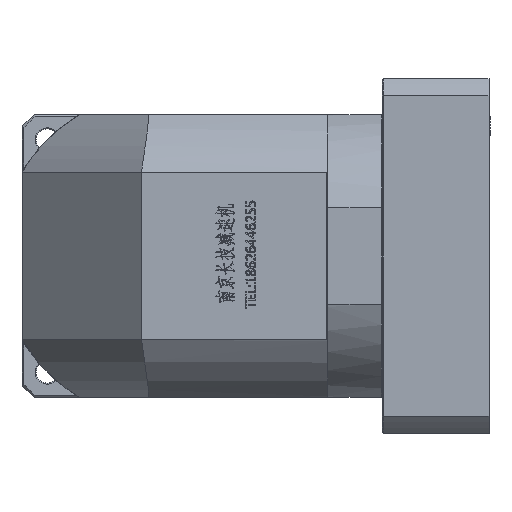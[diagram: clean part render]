
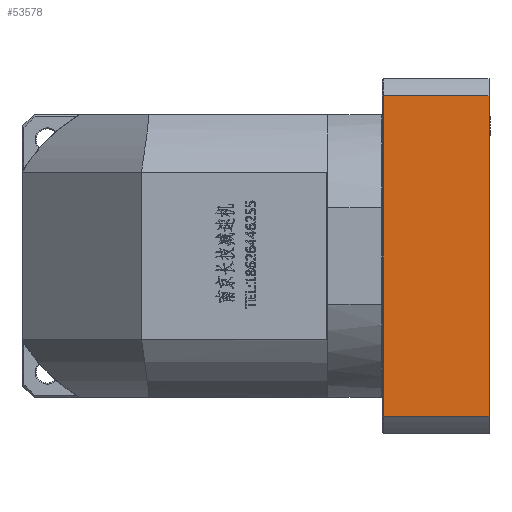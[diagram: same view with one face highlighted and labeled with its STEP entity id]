
A CAD part, left-side view. The second image highlights one B-rep face of the part: STEP entity #53578.
In plain terms, the highlighted planar face has unit normal (-1, 0, 0).
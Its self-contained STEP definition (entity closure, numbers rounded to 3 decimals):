
#666 = CARTESIAN_POINT ( 'NONE',  ( -47.552, -170.319, 156.879 ) ) ;
#5004 = DIRECTION ( 'NONE',  ( 0., 1., 0. ) ) ;
#12781 = EDGE_CURVE ( 'NONE', #33826, #125347, #61573, .T. ) ;
#13772 = DIRECTION ( 'NONE',  ( 0., 0., -1. ) ) ;
#15189 = FACE_OUTER_BOUND ( 'NONE', #112871, .T. ) ;
#15910 = ORIENTED_EDGE ( 'NONE', *, *, #12781, .T. ) ;
#24927 = VERTEX_POINT ( 'NONE', #124285 ) ;
#28641 = CARTESIAN_POINT ( 'NONE',  ( -47.552, -223.819, 317.864 ) ) ;
#33826 = VERTEX_POINT ( 'NONE', #110635 ) ;
#40292 = LINE ( 'NONE', #161288, #52495 ) ;
#44072 = CARTESIAN_POINT ( 'NONE',  ( -47.552, -223.319, 317.864 ) ) ;
#52495 = VECTOR ( 'NONE', #5004, 1000. ) ;
#53578 = ADVANCED_FACE ( 'NONE', ( #15189 ), #101663, .F. ) ;
#57016 = EDGE_CURVE ( 'NONE', #33826, #138757, #57554, .T. ) ;
#57554 = LINE ( 'NONE', #28641, #131160 ) ;
#60368 = ORIENTED_EDGE ( 'NONE', *, *, #57016, .F. ) ;
#61573 = LINE ( 'NONE', #158702, #116761 ) ;
#61860 = VECTOR ( 'NONE', #111222, 1000. ) ;
#73078 = ORIENTED_EDGE ( 'NONE', *, *, #79558, .F. ) ;
#75971 = CARTESIAN_POINT ( 'NONE',  ( -47.552, -223.819, 148.371 ) ) ;
#79558 = EDGE_CURVE ( 'NONE', #24927, #125347, #40292, .T. ) ;
#94179 = DIRECTION ( 'NONE',  ( 0., -1., 0. ) ) ;
#101663 = PLANE ( 'NONE',  #136114 ) ;
#110635 = CARTESIAN_POINT ( 'NONE',  ( -47.552, -170.319, 317.864 ) ) ;
#111222 = DIRECTION ( 'NONE',  ( 0., 0., -1. ) ) ;
#112871 = EDGE_LOOP ( 'NONE', ( #60368, #15910, #73078, #140300 ) ) ;
#116761 = VECTOR ( 'NONE', #13772, 1000. ) ;
#124285 = CARTESIAN_POINT ( 'NONE',  ( -47.552, -223.319, 156.879 ) ) ;
#125347 = VERTEX_POINT ( 'NONE', #666 ) ;
#129653 = DIRECTION ( 'NONE',  ( 0., 1., 0. ) ) ;
#131160 = VECTOR ( 'NONE', #94179, 1000. ) ;
#136114 = AXIS2_PLACEMENT_3D ( 'NONE', #75971, #155288, #129653 ) ;
#138757 = VERTEX_POINT ( 'NONE', #44072 ) ;
#140300 = ORIENTED_EDGE ( 'NONE', *, *, #143548, .F. ) ;
#143548 = EDGE_CURVE ( 'NONE', #138757, #24927, #157784, .T. ) ;
#155288 = DIRECTION ( 'NONE',  ( 1., 0., 0. ) ) ;
#157784 = LINE ( 'NONE', #164270, #61860 ) ;
#158702 = CARTESIAN_POINT ( 'NONE',  ( -47.552, -170.319, 148.371 ) ) ;
#161288 = CARTESIAN_POINT ( 'NONE',  ( -47.552, 172.986, 156.879 ) ) ;
#164270 = CARTESIAN_POINT ( 'NONE',  ( -47.552, -223.319, 148.371 ) ) ;
